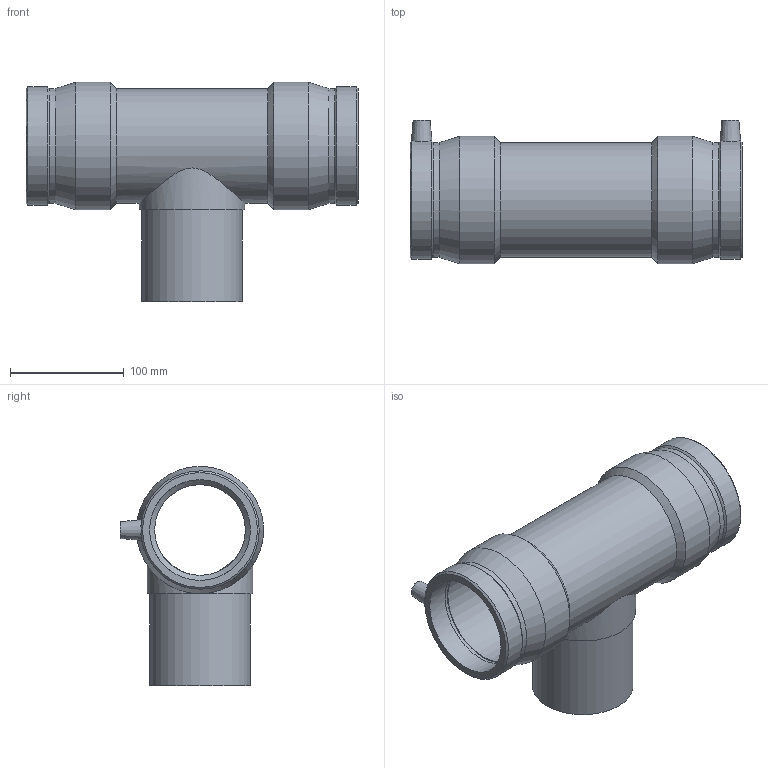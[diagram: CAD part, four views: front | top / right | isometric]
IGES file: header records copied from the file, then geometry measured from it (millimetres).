
Global section: file name: 5904B003030.ipt; native system: Autodesk Inventor 2019; preprocessor: unknown; author: KIM; date: 20210830.100948; units: inch
Bounding box: 292.1 x 126.11 x 192.91 mm (x, y, z)
Volume: 1061617.4 mm3; surface area: 226501 mm2
Topology: 1 solids, 1 shells, 47 faces, 107 edges, 70 vertices
Faces by surface type: plane 12, revolution 12, cone 12, cylinder 11
Full cylindrical faces by diameter (mm): 4 x2, 88.7 x1, 93.135 x1, 100.813 x1, 101.048 x2, 112.014 x2
